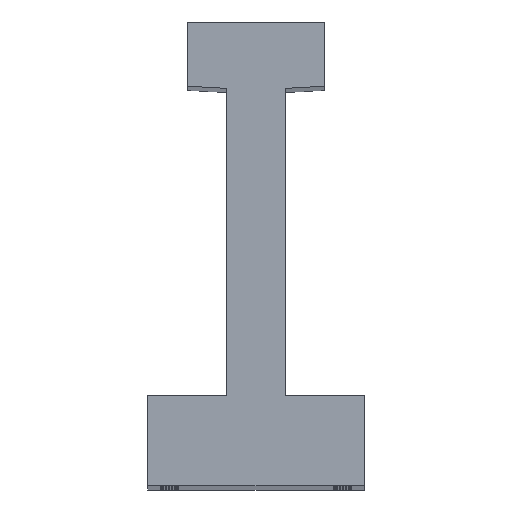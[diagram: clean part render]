
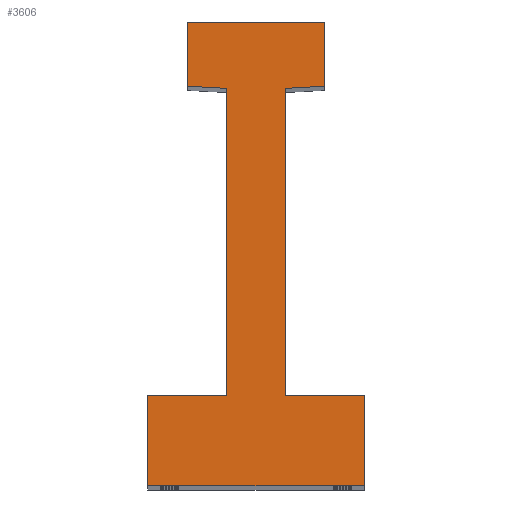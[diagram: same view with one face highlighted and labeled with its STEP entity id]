
A CAD part, top view. The second image highlights one B-rep face of the part: STEP entity #3606.
In plain terms, the highlighted planar face has unit normal (0, 0, 1).
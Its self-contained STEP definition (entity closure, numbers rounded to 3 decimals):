
#2 = CARTESIAN_POINT ( 'NONE',  ( 0., 0., 270.5 ) ) ;
#20 = VERTEX_POINT ( 'NONE', #3703 ) ;
#21 = DIRECTION ( 'NONE',  ( 1., 0., 0. ) ) ;
#125 = CARTESIAN_POINT ( 'NONE',  ( 24.5, 0., 270.5 ) ) ;
#160 = CARTESIAN_POINT ( 'NONE',  ( -6.6, 89.8, 270.5 ) ) ;
#210 = VECTOR ( 'NONE', #2822, 1000. ) ;
#238 = ORIENTED_EDGE ( 'NONE', *, *, #5936, .T. ) ;
#273 = ORIENTED_EDGE ( 'NONE', *, *, #2866, .T. ) ;
#365 = CARTESIAN_POINT ( 'NONE',  ( 6.6, 20.5, 270.5 ) ) ;
#414 = VECTOR ( 'NONE', #1310, 1000. ) ;
#595 = CARTESIAN_POINT ( 'NONE',  ( -24.5, 20.5, 270.5 ) ) ;
#670 = CARTESIAN_POINT ( 'NONE',  ( -24.5, 0., 270.5 ) ) ;
#718 = VECTOR ( 'NONE', #2647, 1000. ) ;
#914 = EDGE_CURVE ( 'NONE', #2453, #6182, #6554, .T. ) ;
#1001 = VERTEX_POINT ( 'NONE', #1046 ) ;
#1046 = CARTESIAN_POINT ( 'NONE',  ( 15.5, 104.8, 270.5 ) ) ;
#1095 = PLANE ( 'NONE',  #4618 ) ;
#1149 = VERTEX_POINT ( 'NONE', #3561 ) ;
#1202 = VECTOR ( 'NONE', #5186, 1000. ) ;
#1310 = DIRECTION ( 'NONE',  ( 0.998, 0.056, 0. ) ) ;
#1409 = VERTEX_POINT ( 'NONE', #125 ) ;
#1524 = CARTESIAN_POINT ( 'NONE',  ( -24.5, 20.5, 270.5 ) ) ;
#1551 = LINE ( 'NONE', #5296, #3869 ) ;
#1567 = CARTESIAN_POINT ( 'NONE',  ( -6.6, 89.8, 270.5 ) ) ;
#1602 = EDGE_CURVE ( 'NONE', #1409, #1882, #5074, .T. ) ;
#1624 = LINE ( 'NONE', #4033, #414 ) ;
#1738 = CARTESIAN_POINT ( 'NONE',  ( -15.5, 90.3, 270.5 ) ) ;
#1882 = VERTEX_POINT ( 'NONE', #6529 ) ;
#2005 = ORIENTED_EDGE ( 'NONE', *, *, #5467, .T. ) ;
#2058 = DIRECTION ( 'NONE',  ( -1., 0., 0. ) ) ;
#2199 = DIRECTION ( 'NONE',  ( 0., 1., 0. ) ) ;
#2453 = VERTEX_POINT ( 'NONE', #5985 ) ;
#2647 = DIRECTION ( 'NONE',  ( -1., 0., 0. ) ) ;
#2797 = LINE ( 'NONE', #670, #4032 ) ;
#2822 = DIRECTION ( 'NONE',  ( 0., 1., 0. ) ) ;
#2866 = EDGE_CURVE ( 'NONE', #5435, #6563, #5022, .T. ) ;
#2889 = VECTOR ( 'NONE', #2199, 1000. ) ;
#2909 = DIRECTION ( 'NONE',  ( 0., 1., 0. ) ) ;
#3045 = CARTESIAN_POINT ( 'NONE',  ( -24.5, 0., 270.5 ) ) ;
#3115 = EDGE_CURVE ( 'NONE', #6563, #20, #1624, .T. ) ;
#3158 = ORIENTED_EDGE ( 'NONE', *, *, #3115, .T. ) ;
#3175 = EDGE_LOOP ( 'NONE', ( #3455, #5910, #5801, #4093, #3944, #4488, #2005, #273, #3158, #4479, #238, #3962 ) ) ;
#3349 = VERTEX_POINT ( 'NONE', #1567 ) ;
#3455 = ORIENTED_EDGE ( 'NONE', *, *, #6217, .F. ) ;
#3561 = CARTESIAN_POINT ( 'NONE',  ( -6.6, 20.5, 270.5 ) ) ;
#3571 = CARTESIAN_POINT ( 'NONE',  ( -15.5, 89.8, 270.5 ) ) ;
#3601 = VECTOR ( 'NONE', #4064, 1000. ) ;
#3606 = ADVANCED_FACE ( 'NONE', ( #3857 ), #1095, .T. ) ;
#3619 = CARTESIAN_POINT ( 'NONE',  ( 24.5, 20.5, 270.5 ) ) ;
#3703 = CARTESIAN_POINT ( 'NONE',  ( 15.5, 90.3, 270.5 ) ) ;
#3857 = FACE_OUTER_BOUND ( 'NONE', #3175, .T. ) ;
#3866 = VECTOR ( 'NONE', #4643, 1000. ) ;
#3869 = VECTOR ( 'NONE', #4839, 1000. ) ;
#3910 = VECTOR ( 'NONE', #5590, 1000. ) ;
#3944 = ORIENTED_EDGE ( 'NONE', *, *, #6128, .T. ) ;
#3962 = ORIENTED_EDGE ( 'NONE', *, *, #914, .T. ) ;
#4025 = LINE ( 'NONE', #1524, #718 ) ;
#4032 = VECTOR ( 'NONE', #4957, 1000. ) ;
#4033 = CARTESIAN_POINT ( 'NONE',  ( 6.6, 89.8, 270.5 ) ) ;
#4064 = DIRECTION ( 'NONE',  ( -0.998, 0.056, 0. ) ) ;
#4092 = CARTESIAN_POINT ( 'NONE',  ( 15.5, 104.8, 270.5 ) ) ;
#4093 = ORIENTED_EDGE ( 'NONE', *, *, #5780, .T. ) ;
#4217 = EDGE_CURVE ( 'NONE', #20, #1001, #4634, .T. ) ;
#4438 = CARTESIAN_POINT ( 'NONE',  ( 15.5, 89.8, 270.5 ) ) ;
#4479 = ORIENTED_EDGE ( 'NONE', *, *, #4217, .T. ) ;
#4488 = ORIENTED_EDGE ( 'NONE', *, *, #1602, .T. ) ;
#4541 = VECTOR ( 'NONE', #2058, 1000. ) ;
#4618 = AXIS2_PLACEMENT_3D ( 'NONE', #2, #6334, #21 ) ;
#4634 = LINE ( 'NONE', #4438, #5275 ) ;
#4643 = DIRECTION ( 'NONE',  ( 0., -1., 0. ) ) ;
#4837 = EDGE_CURVE ( 'NONE', #1149, #5176, #4025, .T. ) ;
#4839 = DIRECTION ( 'NONE',  ( 0., -1., 0. ) ) ;
#4957 = DIRECTION ( 'NONE',  ( 1., 0., 0. ) ) ;
#5022 = LINE ( 'NONE', #5343, #2889 ) ;
#5074 = LINE ( 'NONE', #6421, #210 ) ;
#5176 = VERTEX_POINT ( 'NONE', #595 ) ;
#5186 = DIRECTION ( 'NONE',  ( -1., 0., 0. ) ) ;
#5250 = CARTESIAN_POINT ( 'NONE',  ( 6.6, 89.8, 270.5 ) ) ;
#5275 = VECTOR ( 'NONE', #2909, 1000. ) ;
#5296 = CARTESIAN_POINT ( 'NONE',  ( -6.6, 20.5, 270.5 ) ) ;
#5343 = CARTESIAN_POINT ( 'NONE',  ( 6.6, 20.5, 270.5 ) ) ;
#5435 = VERTEX_POINT ( 'NONE', #365 ) ;
#5467 = EDGE_CURVE ( 'NONE', #1882, #5435, #6605, .T. ) ;
#5590 = DIRECTION ( 'NONE',  ( 0., -1., 0. ) ) ;
#5602 = LINE ( 'NONE', #3045, #3910 ) ;
#5633 = LINE ( 'NONE', #160, #3601 ) ;
#5780 = EDGE_CURVE ( 'NONE', #5176, #6483, #5602, .T. ) ;
#5801 = ORIENTED_EDGE ( 'NONE', *, *, #4837, .T. ) ;
#5910 = ORIENTED_EDGE ( 'NONE', *, *, #6667, .T. ) ;
#5936 = EDGE_CURVE ( 'NONE', #1001, #2453, #6180, .T. ) ;
#5985 = CARTESIAN_POINT ( 'NONE',  ( -15.5, 104.8, 270.5 ) ) ;
#6110 = CARTESIAN_POINT ( 'NONE',  ( -24.5, 0., 270.5 ) ) ;
#6128 = EDGE_CURVE ( 'NONE', #6483, #1409, #2797, .T. ) ;
#6180 = LINE ( 'NONE', #4092, #4541 ) ;
#6182 = VERTEX_POINT ( 'NONE', #1738 ) ;
#6217 = EDGE_CURVE ( 'NONE', #3349, #6182, #5633, .T. ) ;
#6334 = DIRECTION ( 'NONE',  ( 0., 0., 1. ) ) ;
#6421 = CARTESIAN_POINT ( 'NONE',  ( 24.5, 0., 270.5 ) ) ;
#6483 = VERTEX_POINT ( 'NONE', #6110 ) ;
#6529 = CARTESIAN_POINT ( 'NONE',  ( 24.5, 20.5, 270.5 ) ) ;
#6554 = LINE ( 'NONE', #3571, #3866 ) ;
#6563 = VERTEX_POINT ( 'NONE', #5250 ) ;
#6605 = LINE ( 'NONE', #3619, #1202 ) ;
#6667 = EDGE_CURVE ( 'NONE', #3349, #1149, #1551, .T. ) ;
